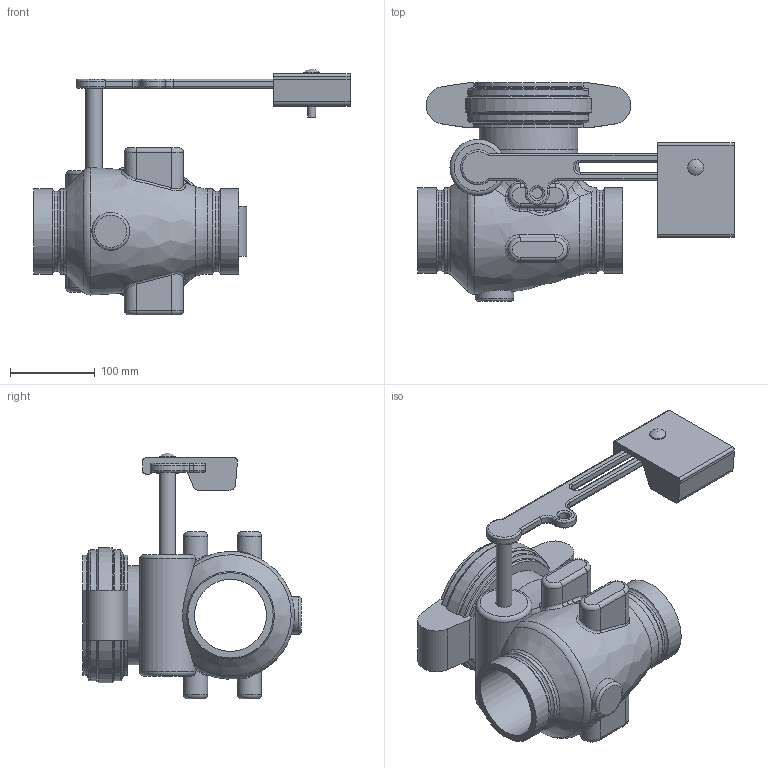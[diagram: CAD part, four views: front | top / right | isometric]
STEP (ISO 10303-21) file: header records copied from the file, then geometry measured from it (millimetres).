
FILE_DESCRIPTION(/* description */ ('VIC AWWA VALVE CHECK WEIGHT AND LEVER SERIES 317 (DRG)','CAx-IF Rec.Pracs.---Representation and Presentation of Product Manufacturing Information (PMI)---4.0---2014-10-13'),/* implementation_level */ '2;1');
FILE_NAME(/* name */ 'C:\Users\Vjadhav\Desktop\CAD for Inventor\1\317\STEP\Victaulic_AWWA_Valve Check Weight and Lever_Series 317 (DRG)\Victaulic_AWWA_Valve Check Weight and Lever_Series 317 (DRG)_3 (80).stp',/* time_stamp */ '2021-10-01T17:35:13+05:00',/* author */ ('jbrannon'),/* organization */ ('Victaulic'),/* preprocessor_version */ 'ST-DEVELOPER v17.2',/* originating_system */ 'Autodesk Inventor 2019',/* authorisation */ '');
FILE_SCHEMA (('AP242_MANAGED_MODEL_BASED_3D_ENGINEERING_MIM_LF { 1 0 10303 442 1 1 4 }'));
Length unit declared in the file: inch
Products named in the file (1): 317-03.0
Bounding box: 372.11 x 257.3 x 289.26 mm (x, y, z)
Volume: 4328546.1 mm3; surface area: 348947.1 mm2
Topology: 1 solids, 1 shells, 237 faces, 612 edges, 385 vertices
Faces by surface type: cylinder 76, plane 59, torus 51, bspline 38, cone 12, sphere 1
Full cylindrical faces by diameter (mm): 9.525 x2, 12.827 x1, 19.05 x2, 25.4 x1, 44.45 x1, 66.04 x1, 84.836 x1, 94.564 x2, 100.584 x4, 116.284 x1
Entity records: 9258 total; most frequent: CARTESIAN_POINT 3269, ORIENTED_EDGE 1222, DIRECTION 1184, EDGE_CURVE 611, AXIS2_PLACEMENT_3D 490, VERTEX_POINT 385, CIRCLE 277, EDGE_LOOP 254
